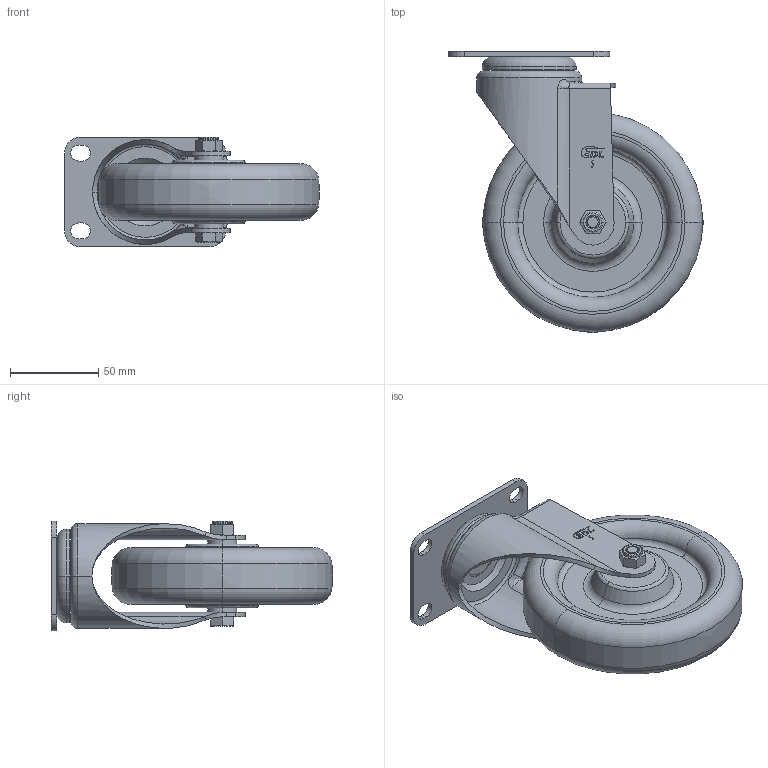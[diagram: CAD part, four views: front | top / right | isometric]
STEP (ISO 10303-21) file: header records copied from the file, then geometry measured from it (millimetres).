
FILE_DESCRIPTION((''),'2;1');
FILE_NAME('S54715_ASM','2021-08-10T',('lenovo'),(''),'PRO/ENGINEER BY PARAMETRIC TECHNOLOGY CORPORATION, 2010280','PRO/ENGINEER BY PARAMETRIC TECHNOLOGY CORPORATION, 2010280','');
FILE_SCHEMA(('CONFIG_CONTROL_DESIGN'));
Length unit declared in the file: millimetre
Products named in the file (6): S545-11; S540-01; 505-986; S540-33; S540-34; S54715_ASM
Assembly tree (5 placements, depth 2):
  S54715_ASM
    S545-11
    S540-01
    505-986
    S540-33
    S540-34
Bounding box: 143.95 x 158.95 x 62 mm (x, y, z)
Volume: 356504.5 mm3; surface area: 82399.3 mm2
Topology: 5 solids, 5 shells, 263 faces, 635 edges, 396 vertices
Faces by surface type: plane 127, cylinder 56, torus 38, cone 32, bspline 10
Entity records: 9456 total; most frequent: CARTESIAN_POINT 3099, DIRECTION 1337, ORIENTED_EDGE 1270, EDGE_CURVE 635, AXIS2_PLACEMENT_3D 490, VERTEX_POINT 396, VECTOR 357, LINE 357
